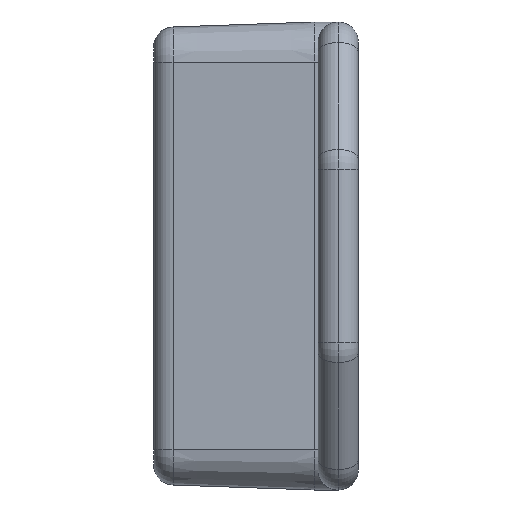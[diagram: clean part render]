
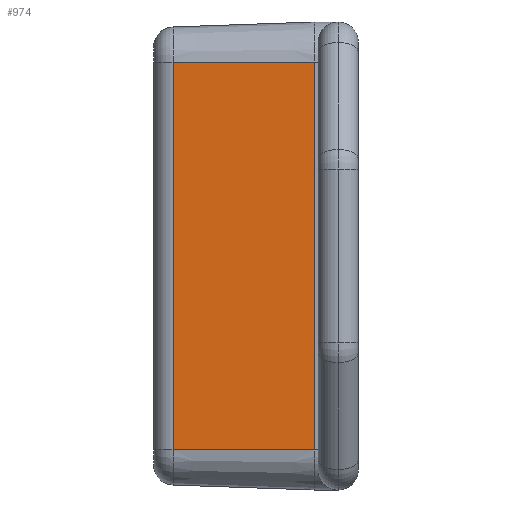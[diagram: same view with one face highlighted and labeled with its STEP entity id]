
A CAD part, left-side view. The second image highlights one B-rep face of the part: STEP entity #974.
In plain terms, the highlighted planar face has unit normal (-0.999, 0.035, 0).
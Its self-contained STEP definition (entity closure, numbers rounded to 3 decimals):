
#41 = CARTESIAN_POINT ( 'NONE',  ( -25., 0., -14.5 ) ) ;
#199 = CARTESIAN_POINT ( 'NONE',  ( -25., 0., -14.5 ) ) ;
#312 = EDGE_CURVE ( 'NONE', #4109, #3650, #4125, .T. ) ;
#384 = CARTESIAN_POINT ( 'NONE',  ( -24.632, 10.552, 14.5 ) ) ;
#592 = VECTOR ( 'NONE', #3964, 1000. ) ;
#833 = VECTOR ( 'NONE', #4840, 1000. ) ;
#974 = ADVANCED_FACE ( 'NONE', ( #4176 ), #2368, .T. ) ;
#1020 = EDGE_CURVE ( 'NONE', #1076, #3796, #1993, .T. ) ;
#1076 = VERTEX_POINT ( 'NONE', #2386 ) ;
#1484 = ORIENTED_EDGE ( 'NONE', *, *, #4695, .T. ) ;
#1710 = LINE ( 'NONE', #3567, #592 ) ;
#1894 = DIRECTION ( 'NONE',  ( -0.035, -0.999, 0. ) ) ;
#1993 = LINE ( 'NONE', #199, #2846 ) ;
#2152 = DIRECTION ( 'NONE',  ( 0., 0., -1. ) ) ;
#2286 = CARTESIAN_POINT ( 'NONE',  ( -25., 0., 14.5 ) ) ;
#2368 = PLANE ( 'NONE',  #3581 ) ;
#2376 = ORIENTED_EDGE ( 'NONE', *, *, #4440, .T. ) ;
#2386 = CARTESIAN_POINT ( 'NONE',  ( -24.632, 10.552, -14.5 ) ) ;
#2747 = VECTOR ( 'NONE', #2152, 1000. ) ;
#2846 = VECTOR ( 'NONE', #1894, 1000. ) ;
#2981 = CARTESIAN_POINT ( 'NONE',  ( -24.632, 10.552, -14.5 ) ) ;
#3240 = ORIENTED_EDGE ( 'NONE', *, *, #312, .F. ) ;
#3567 = CARTESIAN_POINT ( 'NONE',  ( -25., 0., -14.5 ) ) ;
#3581 = AXIS2_PLACEMENT_3D ( 'NONE', #41, #4827, #3995 ) ;
#3650 = VERTEX_POINT ( 'NONE', #2286 ) ;
#3796 = VERTEX_POINT ( 'NONE', #3893 ) ;
#3819 = LINE ( 'NONE', #2981, #2747 ) ;
#3893 = CARTESIAN_POINT ( 'NONE',  ( -25., 0., -14.5 ) ) ;
#3964 = DIRECTION ( 'NONE',  ( 0., 0., 1. ) ) ;
#3995 = DIRECTION ( 'NONE',  ( -0.035, -0.999, 0. ) ) ;
#4109 = VERTEX_POINT ( 'NONE', #384 ) ;
#4125 = LINE ( 'NONE', #5267, #833 ) ;
#4176 = FACE_OUTER_BOUND ( 'NONE', #4603, .T. ) ;
#4214 = ORIENTED_EDGE ( 'NONE', *, *, #1020, .T. ) ;
#4440 = EDGE_CURVE ( 'NONE', #3796, #3650, #1710, .T. ) ;
#4603 = EDGE_LOOP ( 'NONE', ( #3240, #1484, #4214, #2376 ) ) ;
#4695 = EDGE_CURVE ( 'NONE', #4109, #1076, #3819, .T. ) ;
#4827 = DIRECTION ( 'NONE',  ( -0.999, 0.035, 0. ) ) ;
#4840 = DIRECTION ( 'NONE',  ( -0.035, -0.999, 0. ) ) ;
#5267 = CARTESIAN_POINT ( 'NONE',  ( -25., 0., 14.5 ) ) ;
